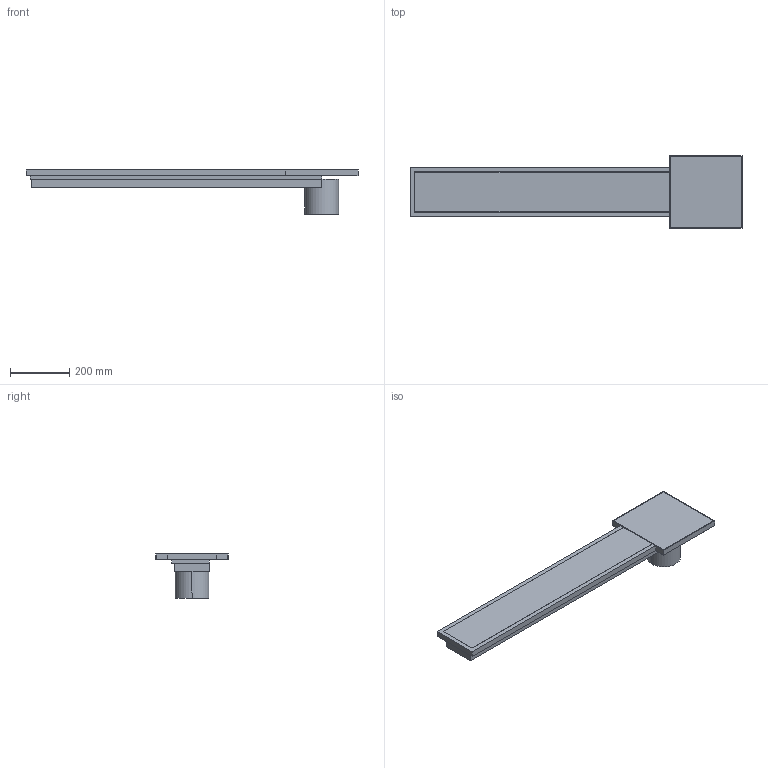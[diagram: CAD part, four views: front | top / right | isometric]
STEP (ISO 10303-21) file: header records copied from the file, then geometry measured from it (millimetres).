
FILE_DESCRIPTION(/* description */ (''),/* implementation_level */ '2;1');
FILE_NAME(/* name */ 'E:\Workspace\resitec\Packs\Kategorie\Entwässerungsrinne\STP\RS770.15.245Entwässerungsrinne mit Auslaufkasten245mm-Ende.s.ipt.stp',/* time_stamp */ '2020-10-04T20:56:10+02:00',/* author */ ('ndmes'),/* organization */ (''),/* preprocessor_version */ 'ST-DEVELOPER v18.1',/* originating_system */ 'Autodesk Inventor 2021',/* authorisation */ '');
FILE_SCHEMA (('AUTOMOTIVE_DESIGN { 1 0 10303 214 3 1 1 }'));
Length unit declared in the file: millimetre
Products named in the file (1): RS770.15.245Entwässerungsrinne mit Auslaufkasten245mm-Ende.s
Bounding box: 1122.5 x 245 x 150 mm (x, y, z)
Volume: 9945544.7 mm3; surface area: 1207057.5 mm2
Topology: 7 solids, 7 shells, 48 faces, 102 edges, 68 vertices
Faces by surface type: plane 46, cylinder 2
Entity records: 1309 total; most frequent: CARTESIAN_POINT 219, ORIENTED_EDGE 204, DIRECTION 204, EDGE_CURVE 102, LINE 98, VECTOR 98, VERTEX_POINT 68, AXIS2_PLACEMENT_3D 53
